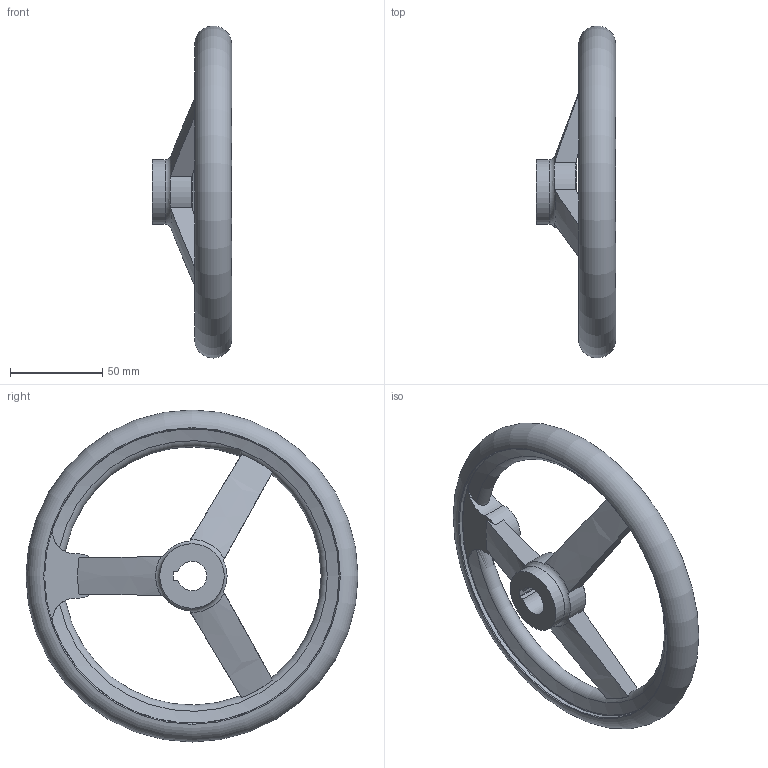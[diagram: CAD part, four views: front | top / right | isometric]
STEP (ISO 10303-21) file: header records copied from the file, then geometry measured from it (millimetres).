
FILE_DESCRIPTION( ( 'STEP AP203' ), '1' );
FILE_NAME( 'C:/Temp/Ganter_Step_05_03_2020/data/1_3/din_950/din_950_k/din_950_k_a/Handwheel DIN 950-AL-180-K16-A.stp', '2020-03-05T10:30:35', ( 'License CC BY-ND 4.0' ), ( 'CADENAS' ), ' ', 'PARTsolutions', ' ' );
FILE_SCHEMA( ( 'CONFIG_CONTROL_DESIGN' ) );
Length unit declared in the file: millimetre
Products named in the file (1): _Handwheel DIN 950-AL-180-K16-A
Bounding box: 43 x 179.99 x 179.99 mm (x, y, z)
Volume: 185097.6 mm3; surface area: 46784.3 mm2
Topology: 1 solids, 1 shells, 44 faces, 129 edges, 83 vertices
Faces by surface type: cylinder 13, plane 13, torus 12, cone 6
Full cylindrical faces by diameter (mm): 35 x2, 160 x2
Entity records: 1768 total; most frequent: CARTESIAN_POINT 651, ORIENTED_EDGE 226, DIRECTION 210, EDGE_CURVE 113, AXIS2_PLACEMENT_3D 93, VERTEX_POINT 80, EDGE_LOOP 60, FACE_OUTER_BOUND 55
